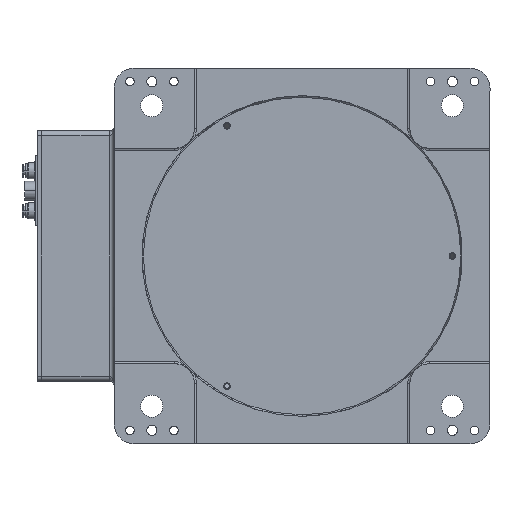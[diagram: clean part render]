
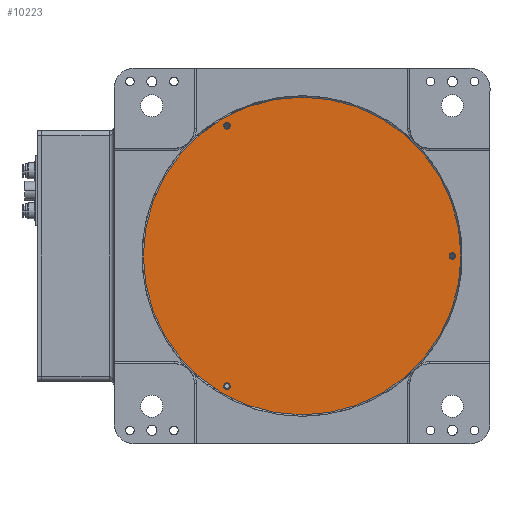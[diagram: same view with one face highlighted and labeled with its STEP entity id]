
A CAD part, front view. The second image highlights one B-rep face of the part: STEP entity #10223.
In plain terms, the highlighted planar face has unit normal (0, -1, 0).
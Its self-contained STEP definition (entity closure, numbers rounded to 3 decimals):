
#106 = AXIS2_PLACEMENT_3D ( 'NONE', #13550, #663, #2096 ) ;
#331 = DIRECTION ( 'NONE',  ( 0., 1., 0. ) ) ;
#633 = AXIS2_PLACEMENT_3D ( 'NONE', #3697, #15040, #9394 ) ;
#663 = DIRECTION ( 'NONE',  ( 0., 1., 0. ) ) ;
#861 = CARTESIAN_POINT ( 'NONE',  ( 0., 12., 0. ) ) ;
#1108 = DIRECTION ( 'NONE',  ( 0.5, 0., 0.866 ) ) ;
#1408 = DIRECTION ( 'NONE',  ( 0.5, 0., 0.866 ) ) ;
#1587 = DIRECTION ( 'NONE',  ( 0., 1., 0. ) ) ;
#1635 = EDGE_LOOP ( 'NONE', ( #12134, #4187 ) ) ;
#1831 = ORIENTED_EDGE ( 'NONE', *, *, #4394, .T. ) ;
#1926 = CIRCLE ( 'NONE', #8139, 3.3 ) ;
#1984 = VERTEX_POINT ( 'NONE', #16403 ) ;
#1990 = VERTEX_POINT ( 'NONE', #10653 ) ;
#2096 = DIRECTION ( 'NONE',  ( 0.5, 0., 0.866 ) ) ;
#2949 = EDGE_CURVE ( 'NONE', #8747, #3381, #16392, .T. ) ;
#3344 = VERTEX_POINT ( 'NONE', #17353 ) ;
#3381 = VERTEX_POINT ( 'NONE', #9007 ) ;
#3697 = CARTESIAN_POINT ( 'NONE',  ( -75., 12., 129.904 ) ) ;
#3910 = AXIS2_PLACEMENT_3D ( 'NONE', #7428, #1587, #8851 ) ;
#3964 = VERTEX_POINT ( 'NONE', #9177 ) ;
#4114 = CARTESIAN_POINT ( 'NONE',  ( -73.35, 12., -127.046 ) ) ;
#4187 = ORIENTED_EDGE ( 'NONE', *, *, #16142, .T. ) ;
#4232 = CARTESIAN_POINT ( 'NONE',  ( -75., 12., -129.904 ) ) ;
#4238 = EDGE_CURVE ( 'NONE', #13922, #1990, #8823, .T. ) ;
#4349 = DIRECTION ( 'NONE',  ( 0.5, 0., 0.866 ) ) ;
#4394 = EDGE_CURVE ( 'NONE', #1990, #13922, #1926, .T. ) ;
#4417 = CARTESIAN_POINT ( 'NONE',  ( -73.35, 12., 132.762 ) ) ;
#4542 = CARTESIAN_POINT ( 'NONE',  ( 0., 12., 0. ) ) ;
#4590 = CIRCLE ( 'NONE', #106, 3.3 ) ;
#5667 = AXIS2_PLACEMENT_3D ( 'NONE', #861, #15008, #1108 ) ;
#6996 = CARTESIAN_POINT ( 'NONE',  ( 150., 12., 0. ) ) ;
#7428 = CARTESIAN_POINT ( 'NONE',  ( -75., 12., 129.904 ) ) ;
#7468 = DIRECTION ( 'NONE',  ( 0.5, 0., 0.866 ) ) ;
#7527 = FACE_OUTER_BOUND ( 'NONE', #15223, .T. ) ;
#7561 = EDGE_CURVE ( 'NONE', #3344, #17641, #12405, .T. ) ;
#8050 = EDGE_LOOP ( 'NONE', ( #8283, #16821 ) ) ;
#8139 = AXIS2_PLACEMENT_3D ( 'NONE', #8282, #16853, #8342 ) ;
#8165 = FACE_BOUND ( 'NONE', #8050, .T. ) ;
#8271 = CARTESIAN_POINT ( 'NONE',  ( 0., 12., 0. ) ) ;
#8282 = CARTESIAN_POINT ( 'NONE',  ( 150., 12., 0. ) ) ;
#8283 = ORIENTED_EDGE ( 'NONE', *, *, #15772, .T. ) ;
#8342 = DIRECTION ( 'NONE',  ( 0.5, 0., 0.866 ) ) ;
#8747 = VERTEX_POINT ( 'NONE', #4417 ) ;
#8823 = CIRCLE ( 'NONE', #14784, 3.3 ) ;
#8851 = DIRECTION ( 'NONE',  ( 0.5, 0., 0.866 ) ) ;
#9007 = CARTESIAN_POINT ( 'NONE',  ( -76.65, 12., 127.046 ) ) ;
#9177 = CARTESIAN_POINT ( 'NONE',  ( 79.25, 12., 137.265 ) ) ;
#9394 = DIRECTION ( 'NONE',  ( 0.5, 0., 0.866 ) ) ;
#9499 = PLANE ( 'NONE',  #9876 ) ;
#9567 = DIRECTION ( 'NONE',  ( 0., 1., 0. ) ) ;
#9876 = AXIS2_PLACEMENT_3D ( 'NONE', #8271, #9567, #12561 ) ;
#9943 = FACE_BOUND ( 'NONE', #1635, .T. ) ;
#10223 = ADVANCED_FACE ( 'NONE', ( #15732, #9943, #8165, #7527 ), #9499, .F. ) ;
#10319 = CARTESIAN_POINT ( 'NONE',  ( 151.65, 12., 2.858 ) ) ;
#10330 = EDGE_LOOP ( 'NONE', ( #11228, #1831 ) ) ;
#10653 = CARTESIAN_POINT ( 'NONE',  ( 148.35, 12., -2.858 ) ) ;
#11228 = ORIENTED_EDGE ( 'NONE', *, *, #4238, .T. ) ;
#11434 = DIRECTION ( 'NONE',  ( 0., 1., 0. ) ) ;
#11944 = AXIS2_PLACEMENT_3D ( 'NONE', #4542, #331, #7468 ) ;
#12134 = ORIENTED_EDGE ( 'NONE', *, *, #2949, .T. ) ;
#12405 = CIRCLE ( 'NONE', #15788, 3.3 ) ;
#12561 = DIRECTION ( 'NONE',  ( 0.5, 0., 0.866 ) ) ;
#13014 = ORIENTED_EDGE ( 'NONE', *, *, #15461, .F. ) ;
#13550 = CARTESIAN_POINT ( 'NONE',  ( -75., 12., -129.904 ) ) ;
#13564 = ORIENTED_EDGE ( 'NONE', *, *, #15287, .F. ) ;
#13922 = VERTEX_POINT ( 'NONE', #10319 ) ;
#13933 = CIRCLE ( 'NONE', #11944, 158.5 ) ;
#14784 = AXIS2_PLACEMENT_3D ( 'NONE', #6996, #11434, #1408 ) ;
#15008 = DIRECTION ( 'NONE',  ( 0., 1., 0. ) ) ;
#15040 = DIRECTION ( 'NONE',  ( 0., 1., 0. ) ) ;
#15223 = EDGE_LOOP ( 'NONE', ( #13014, #13564 ) ) ;
#15250 = CIRCLE ( 'NONE', #5667, 158.5 ) ;
#15287 = EDGE_CURVE ( 'NONE', #1984, #3964, #13933, .T. ) ;
#15461 = EDGE_CURVE ( 'NONE', #3964, #1984, #15250, .T. ) ;
#15732 = FACE_BOUND ( 'NONE', #10330, .T. ) ;
#15772 = EDGE_CURVE ( 'NONE', #17641, #3344, #4590, .T. ) ;
#15788 = AXIS2_PLACEMENT_3D ( 'NONE', #4232, #18433, #4349 ) ;
#16142 = EDGE_CURVE ( 'NONE', #3381, #8747, #16573, .T. ) ;
#16392 = CIRCLE ( 'NONE', #633, 3.3 ) ;
#16403 = CARTESIAN_POINT ( 'NONE',  ( -79.25, 12., -137.265 ) ) ;
#16573 = CIRCLE ( 'NONE', #3910, 3.3 ) ;
#16821 = ORIENTED_EDGE ( 'NONE', *, *, #7561, .T. ) ;
#16853 = DIRECTION ( 'NONE',  ( 0., 1., 0. ) ) ;
#17353 = CARTESIAN_POINT ( 'NONE',  ( -76.65, 12., -132.762 ) ) ;
#17641 = VERTEX_POINT ( 'NONE', #4114 ) ;
#18433 = DIRECTION ( 'NONE',  ( 0., 1., 0. ) ) ;
